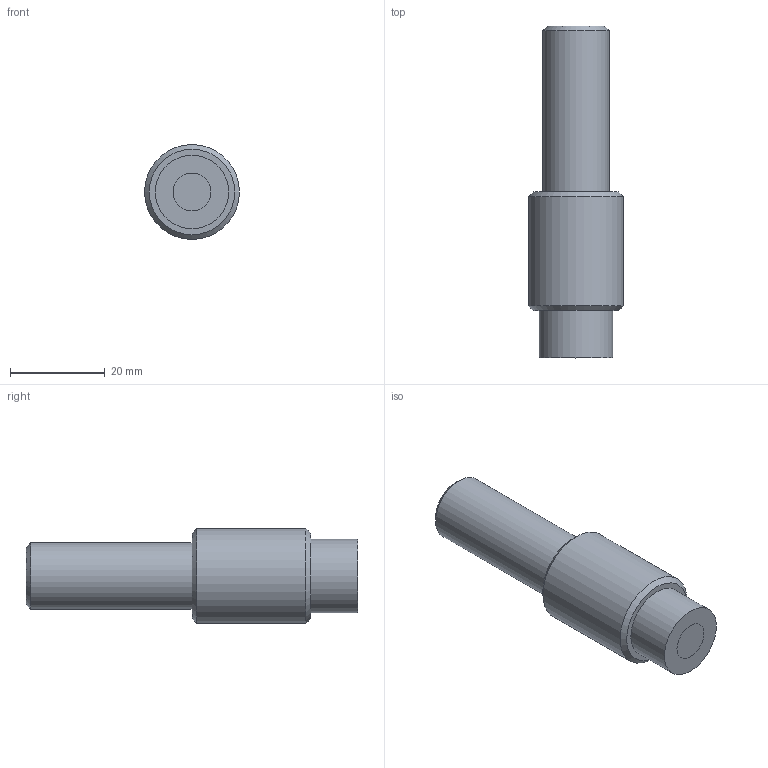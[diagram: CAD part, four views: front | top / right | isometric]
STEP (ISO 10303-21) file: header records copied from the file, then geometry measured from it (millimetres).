
FILE_DESCRIPTION(/* description */ (''),/* implementation_level */ '2;1');
FILE_NAME(/* name */ '//sv004/特品事業部/特品共通フォルダ/☆社外用データテスト/01_製品関連/0121_ライトガイド関連/3D図面/LGA1-8L500N 照射部.step',/* time_stamp */ '2022-09-27T14:31:50+09:00',/* author */ (''),/* organization */ (''),/* preprocessor_version */ 'ST-DEVELOPER v19',/* originating_system */ 'Autodesk Translation Framework v11.7.0.108',/* authorisation */ '');
FILE_SCHEMA (('AUTOMOTIVE_DESIGN { 1 0 10303 214 3 1 1 }'));
Length unit declared in the file: millimetre
Products named in the file (1): LGA1-8L500N 照射部
Bounding box: 20 x 70 x 20 mm (x, y, z)
Volume: 18063 mm3; surface area: 6818 mm2
Topology: 4 solids, 4 shells, 16 faces, 21 edges, 13 vertices
Faces by surface type: plane 8, cylinder 5, cone 3
Full cylindrical faces by diameter (mm): 8 x2, 14 x1, 15.5 x1, 20 x1
Entity records: 368 total; most frequent: DIRECTION 68, CARTESIAN_POINT 51, ORIENTED_EDGE 42, AXIS2_PLACEMENT_3D 30, EDGE_CURVE 21, EDGE_LOOP 18, FACE_OUTER_BOUND 16, ADVANCED_FACE 16
